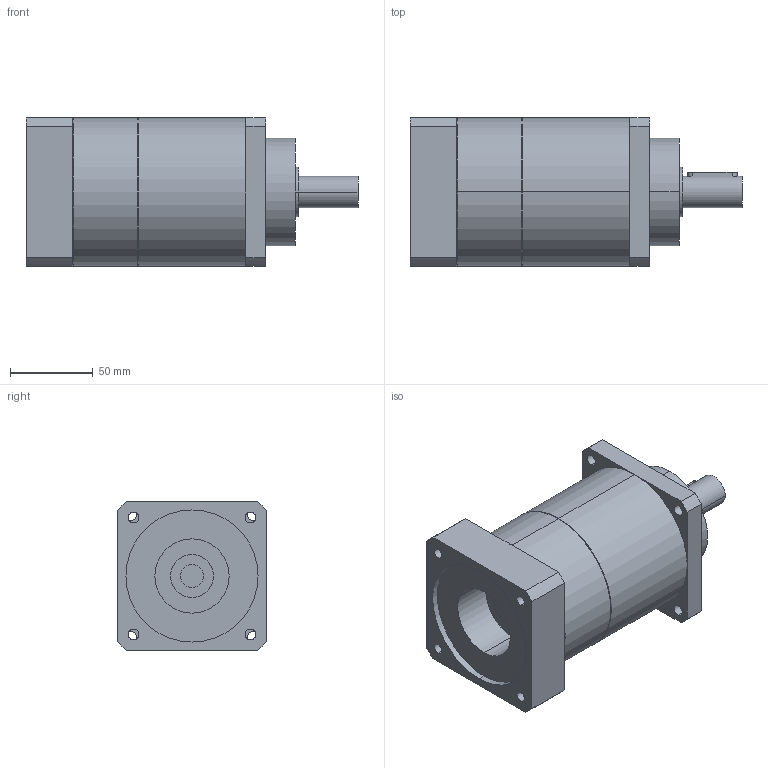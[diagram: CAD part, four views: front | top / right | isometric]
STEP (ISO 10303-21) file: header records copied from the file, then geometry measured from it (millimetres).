
FILE_DESCRIPTION(('CoCreate Modeling STEP Export'),'2;1');
FILE_NAME('GPT90_ig-9-12-16-20-25-28-35-40-50-70-100_19_B5T_14_P28.stp','2015-02-04T11:29:51',(''),(''),'CoCreate Modeling STEP processor for AP214 (Solid Model)','CoCreate Modeling 16.00C 25-Feb-2009 (C) Parametric Technology GmbH','');
FILE_SCHEMA(('AUTOMOTIVE_DESIGN { 1 0 10303 214 1 1 1 1 }'));
Length unit declared in the file: millimetre
Products named in the file (2): GPT90_ig-9-12-16-20-25-28-35-40-50-70-100_19_B5T_14_P28
Assembly tree (1 placements, depth 2):
  GPT90_ig-9-12-16-20-25-28-35-40-50-70-100_19_B5T_14_P28
    GPT90_ig-9-12-16-20-25-28-35-40-50-70-100_19_B5T_14_P28
Bounding box: 201 x 90 x 90 mm (x, y, z)
Volume: 993465.9 mm3; surface area: 78905.7 mm2
Topology: 1 solids, 1 shells, 77 faces, 206 edges, 141 vertices
Faces by surface type: cylinder 46, plane 27, cone 4
Entity records: 2596 total; most frequent: CARTESIAN_POINT 742, ORIENTED_EDGE 412, DIRECTION 324, EDGE_CURVE 206, VERTEX_POINT 141, AXIS2_PLACEMENT_3D 120, EDGE_LOOP 103, VECTOR 84
